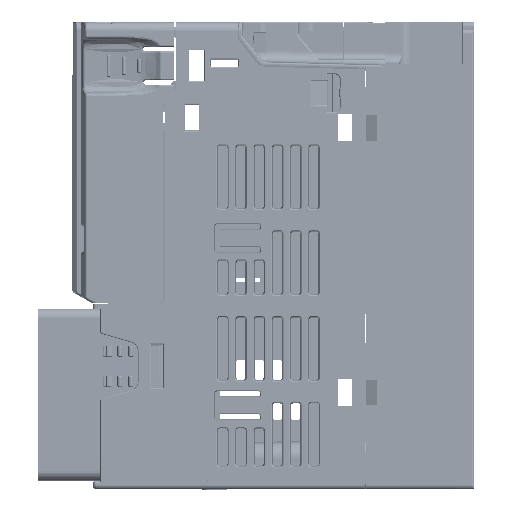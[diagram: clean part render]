
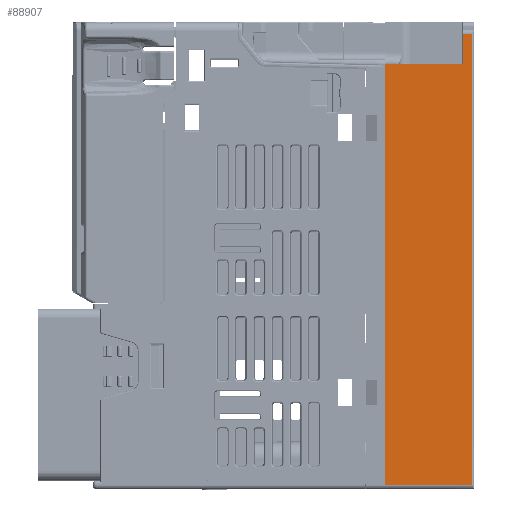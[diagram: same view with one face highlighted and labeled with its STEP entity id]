
A CAD part, left-side view. The second image highlights one B-rep face of the part: STEP entity #88907.
In plain terms, the highlighted planar face has unit normal (-1, 0, 0).
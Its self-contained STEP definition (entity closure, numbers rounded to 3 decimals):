
#86631=DIRECTION('',(0.,0.,-1.));
#86632=VECTOR('',#86631,115.3);
#86633=CARTESIAN_POINT('',(-34.,0.,52.5));
#86634=LINE('',#86633,#86632);
#86654=CARTESIAN_POINT('',(-34.,-23.9,-62.8));
#86672=DIRECTION('',(0.,-1.,0.));
#86673=VECTOR('',#86672,23.9);
#86674=CARTESIAN_POINT('',(-34.,0.,-62.8));
#86675=LINE('',#86674,#86673);
#86686=DIRECTION('',(0.,0.,1.));
#86687=VECTOR('',#86686,123.6);
#86688=CARTESIAN_POINT('',(-34.,-23.9,-62.8));
#86689=LINE('',#86688,#86687);
#86699=CARTESIAN_POINT('',(-34.,-23.9,60.8));
#86704=DIRECTION('',(0.,1.,0.));
#86705=VECTOR('',#86704,2.5);
#86706=CARTESIAN_POINT('',(-34.,-23.9,60.8));
#86707=LINE('',#86706,#86705);
#86733=DIRECTION('',(0.,1.,0.));
#86734=VECTOR('',#86733,21.4);
#86735=CARTESIAN_POINT('',(-34.,-21.4,52.5));
#86736=LINE('',#86735,#86734);
#87878=DIRECTION('',(0.,0.,-1.));
#87879=VECTOR('',#87878,8.3);
#87880=CARTESIAN_POINT('',(-34.,-21.4,60.8));
#87881=LINE('',#87880,#87879);
#88466=CARTESIAN_POINT('',(-34.,0.,-62.8));
#88468=VERTEX_POINT('',#88466);
#88492=CARTESIAN_POINT('',(-34.,0.,52.5));
#88493=VERTEX_POINT('',#88492);
#88498=VERTEX_POINT('',#86654);
#88503=VERTEX_POINT('',#86699);
#88504=CARTESIAN_POINT('',(-34.,-21.4,60.8));
#88505=VERTEX_POINT('',#88504);
#88510=CARTESIAN_POINT('',(-34.,-21.4,52.5));
#88511=VERTEX_POINT('',#88510);
#88892=CARTESIAN_POINT('',(-34.,0.,-64.));
#88893=DIRECTION('',(-1.,0.,0.));
#88894=DIRECTION('',(0.,0.,1.));
#88895=AXIS2_PLACEMENT_3D('',#88892,#88893,#88894);
#88896=PLANE('',#88895);
#88897=ORIENTED_EDGE('',*,*,#88870,.F.);
#88898=ORIENTED_EDGE('',*,*,#88855,.F.);
#88899=ORIENTED_EDGE('',*,*,#88832,.F.);
#88901=ORIENTED_EDGE('',*,*,#88900,.F.);
#88903=ORIENTED_EDGE('',*,*,#88902,.F.);
#88904=ORIENTED_EDGE('',*,*,#88881,.F.);
#88905=EDGE_LOOP('',(#88897,#88898,#88899,#88901,#88903,#88904));
#88906=FACE_OUTER_BOUND('',#88905,.F.);
#88832=EDGE_CURVE('',#88493,#88468,#86634,.T.);
#88855=EDGE_CURVE('',#88468,#88498,#86675,.T.);
#88870=EDGE_CURVE('',#88498,#88503,#86689,.T.);
#88881=EDGE_CURVE('',#88503,#88505,#86707,.T.);
#88900=EDGE_CURVE('',#88511,#88493,#86736,.T.);
#88902=EDGE_CURVE('',#88505,#88511,#87881,.T.);
#88907=ADVANCED_FACE('',(#88906),#88896,.T.);
